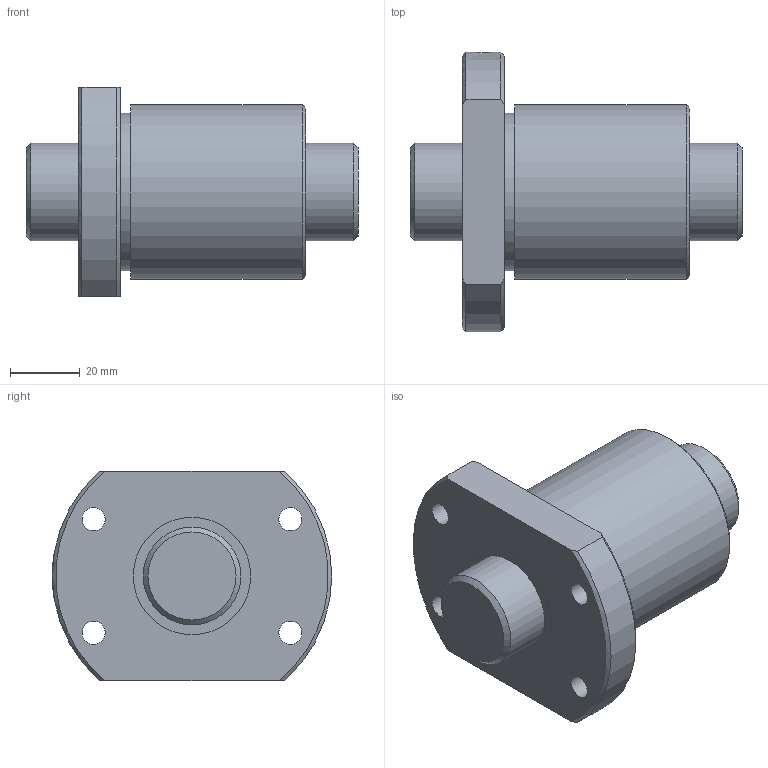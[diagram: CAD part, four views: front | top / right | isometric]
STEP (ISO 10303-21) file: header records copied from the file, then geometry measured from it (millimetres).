
FILE_DESCRIPTION(/* description */ ('STEP AP203'),/* implementation_level */ '2;1');
FILE_NAME(/* name */ 'BTK2806V-5.3ZZ+95LC7T_000',/* time_stamp */ '2025-01-16T07:57:37+01:00',/* author */ ('License CC BY-ND 4.0'),/* organization */ ('CADENAS'),/* preprocessor_version */ 'ST-DEVELOPER v19.3',/* originating_system */ 'PARTsolutions',/* authorisation */ ' ');
FILE_SCHEMA (('CONFIG_CONTROL_DESIGN'));
Length unit declared in the file: millimetre
Products named in the file (3): BTK2806V-5.3ZZ+95LC7T_000; BTK 2806V-5.300 Shaft; BTK 2806V-5.3ZZ Nut
Assembly tree (2 placements, depth 2):
  BTK2806V-5.3ZZ+95LC7T_000
    BTK 2806V-5.300 Shaft
    BTK 2806V-5.3ZZ Nut
Bounding box: 95 x 80 x 60 mm (x, y, z)
Volume: 170487.8 mm3; surface area: 35275.7 mm2
Topology: 2 solids, 2 shells, 31 faces, 66 edges, 43 vertices
Faces by surface type: cylinder 13, plane 10, cone 8
Full cylindrical faces by diameter (mm): 4.917 x1, 6.6 x4, 28 x2, 33.6 x2, 45 x1, 50 x1
Entity records: 887 total; most frequent: CARTESIAN_POINT 170, DIRECTION 140, ORIENTED_EDGE 100, AXIS2_PLACEMENT_3D 66, EDGE_LOOP 62, FACE_BOUND 62, EDGE_CURVE 50, VERTEX_POINT 42
